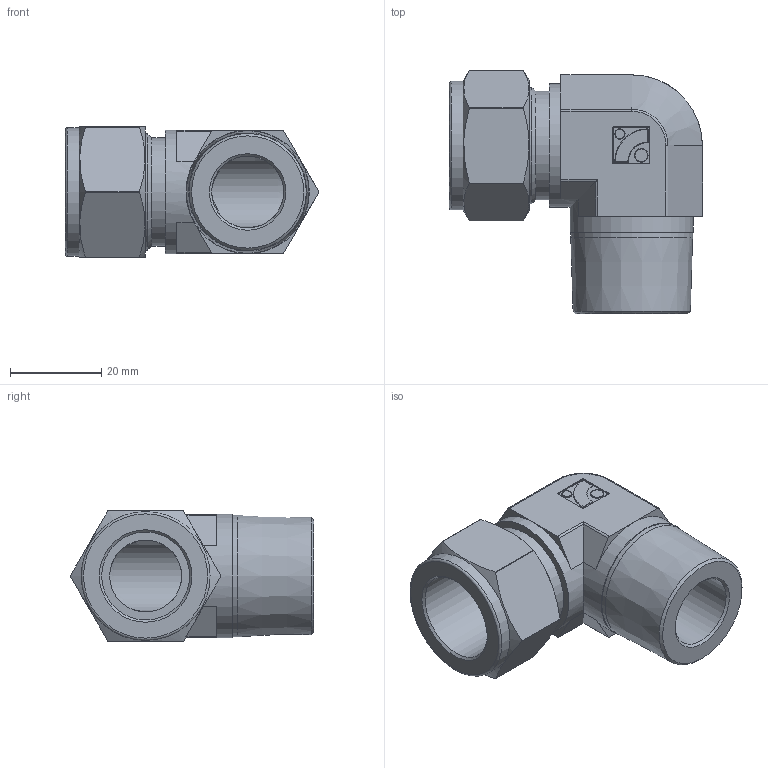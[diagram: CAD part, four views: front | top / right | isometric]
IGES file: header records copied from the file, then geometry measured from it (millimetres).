
Global section: file name: No Iges File Name specified; native system: Autodesk Inventor 2012; preprocessor: AutoDesk Inventor Iges Exporter R2012; author: 硅己绕,,1; organization: 1; date: 20150703.114415; units: millimetre
Bounding box: 55.41 x 53.3 x 28.6 mm (x, y, z)
Volume: 28495.1 mm3; surface area: 11956.9 mm2
Topology: 1 solids, 1 shells, 128 faces, 287 edges, 166 vertices
Faces by surface type: plane 42, cylinder 35, revolution 28, torus 12, cone 7, sphere 4
Full cylindrical faces by diameter (mm): 2.16 x1, 2.88 x1, 23.7 x1, 25.4 x1, 26.67 x1, 27 x2, 28.2 x1
